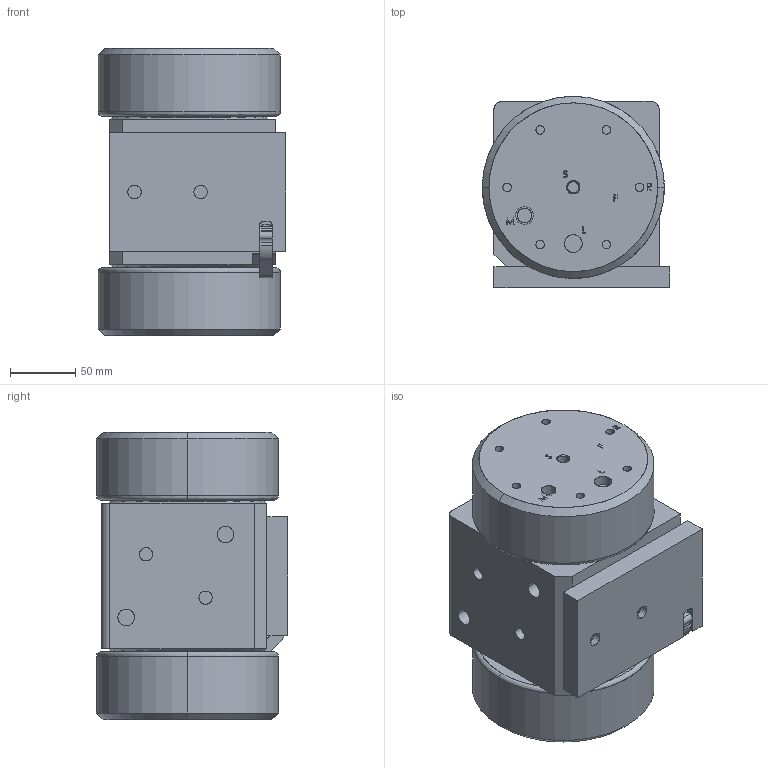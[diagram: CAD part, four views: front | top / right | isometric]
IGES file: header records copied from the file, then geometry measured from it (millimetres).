
Start section: SolidWorks IGES file using analytic representation for surfaces
Global section: file name: S:\Product Visuals\FILES FOR PUBLICATION\SOLID MODELS FOR PUBLICATION\psa060\psa060-no-shuttle\psa060-no-shuttle.IGS; native system: SolidWorks 2012; preprocessor: SolidWorks 2012; author: karen.bodily; date: 121121.143050; units: inch
Bounding box: 143.81 x 146.63 x 220.42 mm (x, y, z)
Surface area: 201178.6 mm2 (no closed solid volume)
Topology: 0 solids, 0 shells, 1047 faces, 12508 edges, 12506 vertices
Faces by surface type: bspline 886, revolution 161
